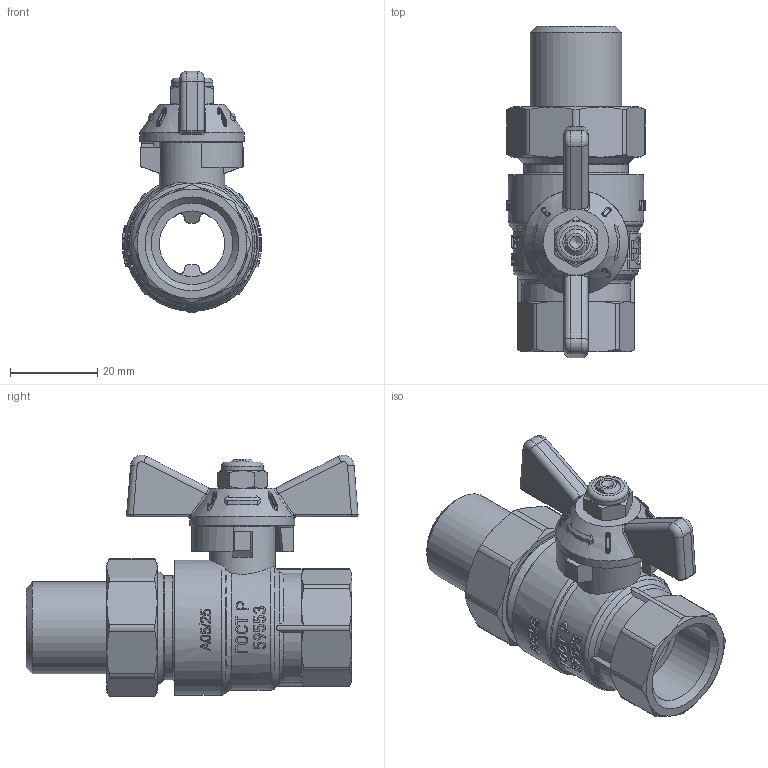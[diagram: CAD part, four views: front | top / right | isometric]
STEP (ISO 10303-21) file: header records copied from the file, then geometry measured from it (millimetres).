
FILE_DESCRIPTION(('STEP AP203'), '1');
FILE_NAME('VT.227S.NW.04', '', ('UNSPECIFIED'), ('UNSPECIFIED'), 'C3D Converter', 'C3D Toolkit', '');
FILE_SCHEMA(('CONFIG_CONTROL_DESIGN'));
Length unit declared in the file: millimetre
Products named in the file (1): ВР.491816.015.000-01 СБ
Bounding box: 31.9 x 75.94 x 55.29 mm (x, y, z)
Volume: 33926.7 mm3; surface area: 16048.5 mm2
Topology: 1 solids, 2 shells, 1851 faces, 5227 edges, 3441 vertices
Faces by surface type: plane 1424, extrusion 179, cylinder 123, cone 76, bspline 28, torus 21
Full cylindrical faces by diameter (mm): 6 x1, 9.5 x1, 10.5 x1, 12 x1, 15 x3, 18.2 x2, 18.632 x1, 20.955 x1, 22.2 x1, 23.8 x1, 24 x1, 26.441 x1, 30.9 x1
Entity records: 67929 total; most frequent: CARTESIAN_POINT 27386, ORIENTED_EDGE 10362, DIRECTION 6330, EDGE_CURVE 5181, VERTEX_POINT 3439, VECTOR 2184, AXIS2_PLACEMENT_3D 2073, LINE 2005
